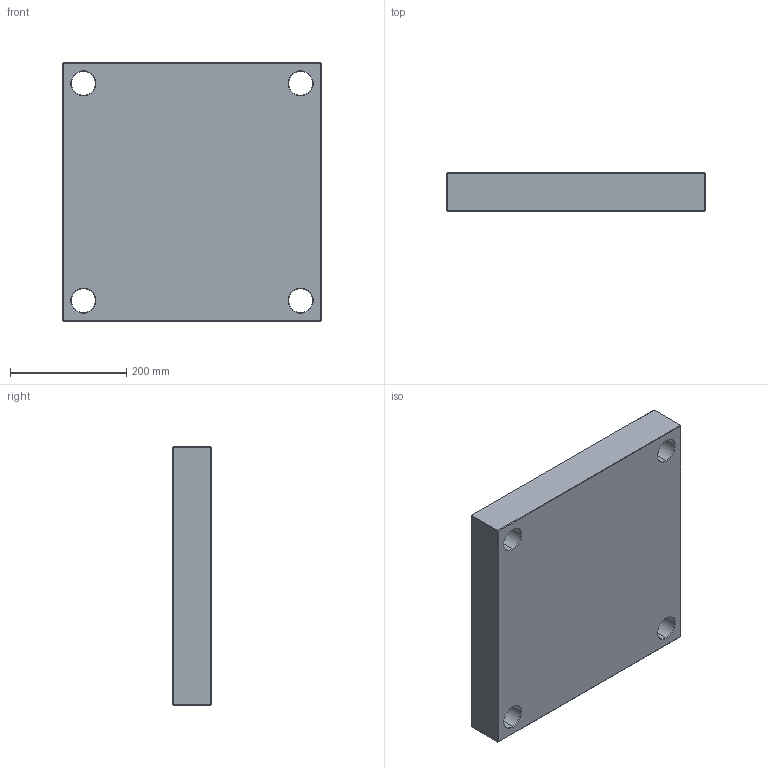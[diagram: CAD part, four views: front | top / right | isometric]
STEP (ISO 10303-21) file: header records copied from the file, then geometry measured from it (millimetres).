
FILE_DESCRIPTION (( 'STEP AP214' ), '1' );
FILE_NAME ('PCX-446x446x66.STEP', '2020-05-04T10:02:37', ( 'August' ), ( '' ), 'SwSTEP 2.0', 'SolidWorks 2018', '' );
FILE_SCHEMA (( 'AUTOMOTIVE_DESIGN' ));
Length unit declared in the file: millimetre
Products named in the file (1): PCX-446x446x66
Bounding box: 446 x 66 x 446 mm (x, y, z)
Volume: 12740256.7 mm3; surface area: 541662 mm2
Topology: 1 solids, 1 shells, 82 faces, 168 edges, 96 vertices
Faces by surface type: plane 34, cone 24, cylinder 24
Entity records: 2170 total; most frequent: DIRECTION 406, CARTESIAN_POINT 347, ORIENTED_EDGE 336, EDGE_CURVE 168, AXIS2_PLACEMENT_3D 155, EDGE_LOOP 98, VECTOR 96, VERTEX_POINT 96
